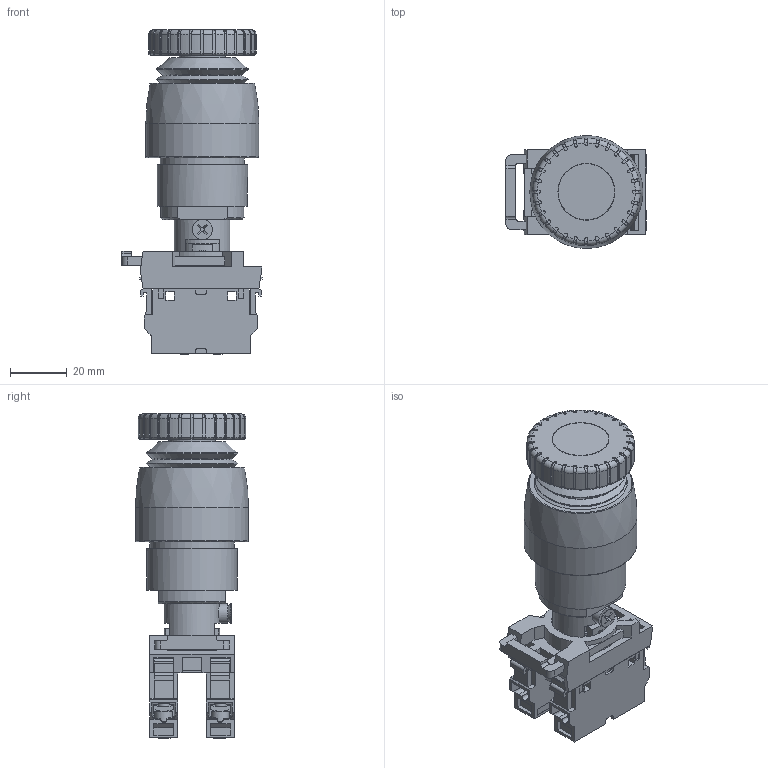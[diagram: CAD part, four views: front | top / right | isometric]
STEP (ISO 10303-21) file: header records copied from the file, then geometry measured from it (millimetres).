
FILE_DESCRIPTION((''),'2;1');
FILE_NAME('\\192.168.5.25\cortem_klient\INVENTOR БАЗА МОДЕЛЕЙ\Актуальная база моделей для отдела продаж\Элементы управления и индикации\КГВ07\КГВ07К11_M1.stp','2019-04-09T12:11:22',('A.S.Kozlov'),(''),'Autodesk Inventor 2012','Autodesk Inventor 2012','');
FILE_SCHEMA(('CONFIG_CONTROL_DESIGN'));
Length unit declared in the file: millimetre
Products named in the file (1): КГВ07К11_M1_Внешний контур_1
Bounding box: 49.65 x 40 x 114.85 mm (x, y, z)
Surface area: 70515.9 mm2 (no closed solid volume)
Topology: 0 solids, 29 shells, 1832 faces, 4991 edges, 3270 vertices
Faces by surface type: plane 1213, cylinder 374, cone 101, torus 80, bspline 58, sphere 4, revolution 2
Full cylindrical faces by diameter (mm): 1.2 x1, 1.3 x6, 1.95 x2, 2.1 x20, 2.95 x2, 3 x1, 3.1 x1, 3.2 x2, 3.242 x1, 3.85 x1, 4 x6, 4.15 x1, 5 x2, 5.5 x1, 5.8 x1, 6.2 x4, 6.4 x1, 6.5 x4, 7 x2, 7.2 x2, 7.4 x1, 7.7 x1, 7.9 x1, 7.95 x2, 8 x1, 11.3 x1, 12 x1, 14.3 x1, 14.85 x1, 15.45 x1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
Entity records: 65665 total; most frequent: CARTESIAN_POINT 18605, ORIENTED_EDGE 9440, DIRECTION 9105, EDGE_CURVE 4720, VERTEX_POINT 3188, VECTOR 3121, LINE 3121, AXIS2_PLACEMENT_3D 2991
